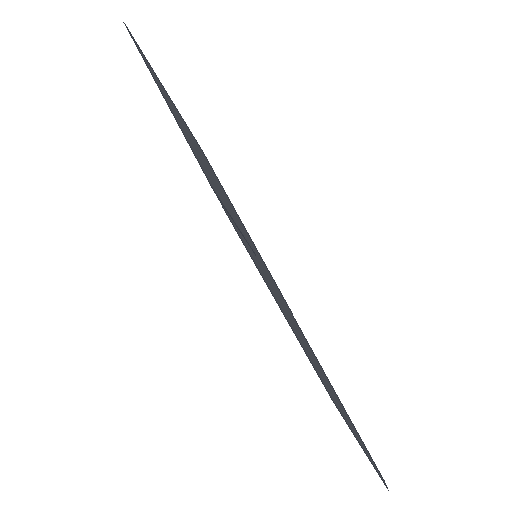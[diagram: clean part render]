
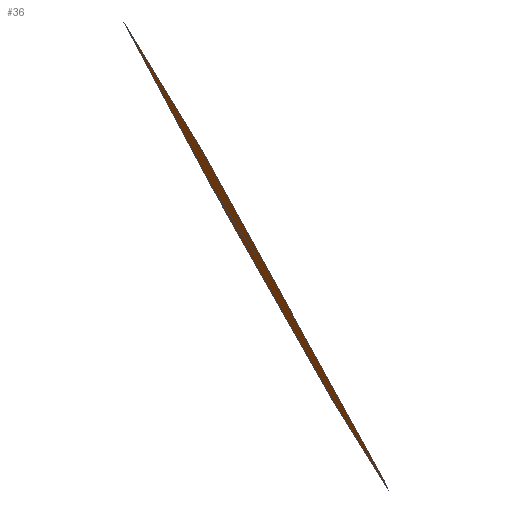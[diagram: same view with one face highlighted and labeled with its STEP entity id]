
A CAD part, top view. The second image highlights one B-rep face of the part: STEP entity #36.
In plain terms, the highlighted planar face has unit normal (-0.871, -0.492, 0) by its records, which use the part's own axes.
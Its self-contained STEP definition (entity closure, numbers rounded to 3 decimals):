
#1=CARTESIAN_POINT('ellipse center',(142.98,-362.864,2.304));
#2=CARTESIAN_POINT('arc start',(-35.921,-46.069,13.293));
#3=CARTESIAN_POINT('arc end',(-35.099,-47.524,13.298));
#4=DIRECTION('plane normal',(-0.871,-0.492,0.));
#5=DIRECTION('ellipse major axis',(0.492,-0.871,0.));
#6=AXIS2_PLACEMENT_3D('',#1,#4,#5);
#10=VERTEX_POINT('',#1);
#11=VERTEX_POINT('',#2);
#12=VERTEX_POINT('',#3);
#20=ELLIPSE('',#6,1209.773,11.522);
#21=EDGE_CURVE('short eccentric ellipse arc',#11,#12,#20,.T.);
#22=B_SPLINE_CURVE_WITH_KNOTS('',1,(#3,#1),.UNSPECIFIED.,.F.,.F.,(2,2),(0.,1.),.UNSPECIFIED.);
#23=EDGE_CURVE('',#12,#10,#22,.T.);
#24=B_SPLINE_CURVE_WITH_KNOTS('',1,(#1,#2),.UNSPECIFIED.,.F.,.F.,(2,2),(0.,1.),.UNSPECIFIED.);
#25=EDGE_CURVE('',#10,#11,#24,.T.);
#30=ORIENTED_EDGE('',*,*,#21,.T.);
#31=ORIENTED_EDGE('',*,*,#23,.T.);
#32=ORIENTED_EDGE('',*,*,#25,.T.);
#33=EDGE_LOOP('',(#30,#31,#32));
#34=FACE_OUTER_BOUND('',#33,.T.);
#35=PLANE('',#6);
#36=ADVANCED_FACE('',(#34),#35,.T.);
